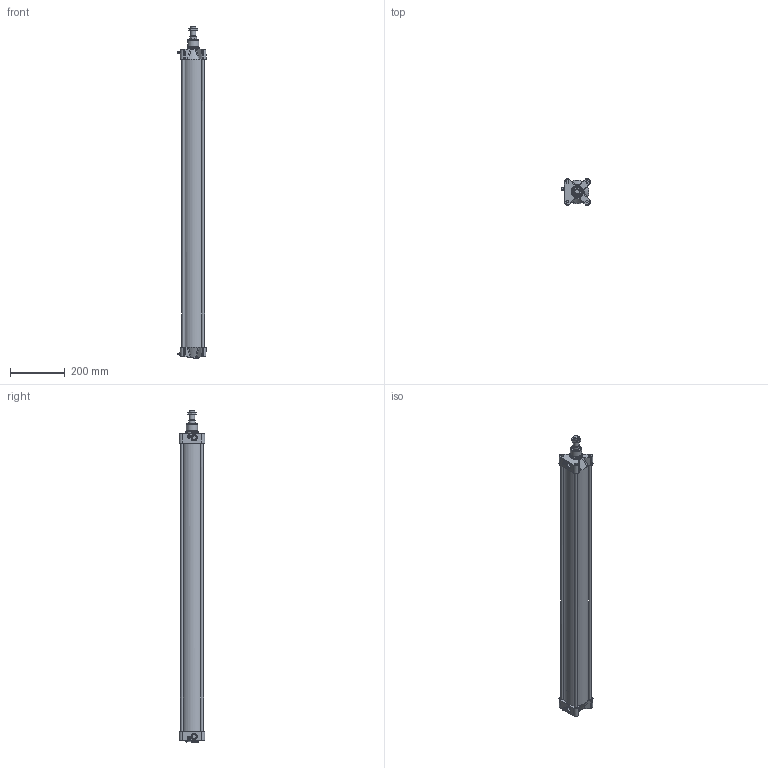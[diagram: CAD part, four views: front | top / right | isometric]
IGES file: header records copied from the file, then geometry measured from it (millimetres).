
Global section: file name: 1393_080_1000_01; native system: Autodesk Inventor 2014; preprocessor: unknown; author: A. Manieri; date: 20151130.150841; units: millimetre
Bounding box: 104 x 95 x 1218 mm (x, y, z)
Volume: 2408829.8 mm3; surface area: 853348.8 mm2
Topology: 3 solids, 5 shells, 233 faces, 578 edges, 377 vertices
Faces by surface type: bspline 233
